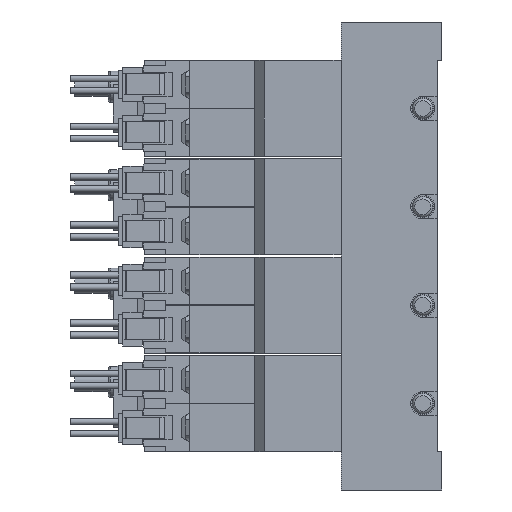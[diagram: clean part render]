
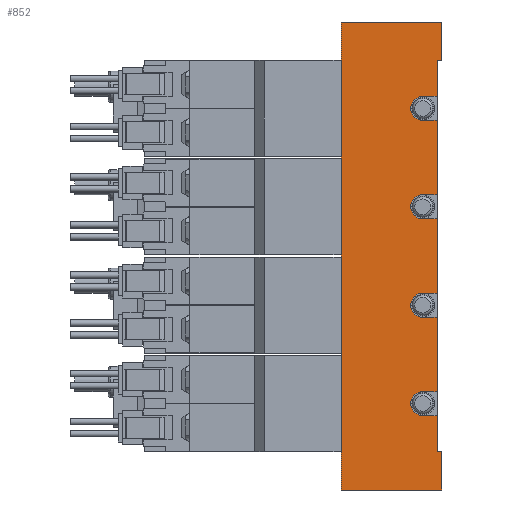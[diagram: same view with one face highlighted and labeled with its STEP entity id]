
A CAD part, left-side view. The second image highlights one B-rep face of the part: STEP entity #852.
In plain terms, the highlighted planar face has unit normal (-1, 0, 0) as drawn and (1, 0, 0) by its records, which use the part's own axes.
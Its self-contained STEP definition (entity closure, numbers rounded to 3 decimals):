
#852=ADVANCED_FACE('',(#1822),#1823,.F.);
#1822=FACE_OUTER_BOUND('',#2872,.T.);
#1823=PLANE('',#2873);
#2872=EDGE_LOOP('',(#6330,#6331,#6332,#6333,#6334,#6335,#6336,#6337,#6338,#6339,#6340,#6341,#6342,#6343,#6344,#6345,#6346,#6347,#6348,#6349,#6350,#6351,#6352,#6353));
#2873=AXIS2_PLACEMENT_3D('',#6354,#6355,#6356);
#6330=ORIENTED_EDGE('',*,*,#7698,.T.);
#6331=ORIENTED_EDGE('',*,*,#7582,.T.);
#6332=ORIENTED_EDGE('',*,*,#7699,.F.);
#6333=ORIENTED_EDGE('',*,*,#7653,.F.);
#6334=ORIENTED_EDGE('',*,*,#7700,.T.);
#6335=ORIENTED_EDGE('',*,*,#7701,.T.);
#6336=ORIENTED_EDGE('',*,*,#7624,.T.);
#6337=ORIENTED_EDGE('',*,*,#7667,.F.);
#6338=ORIENTED_EDGE('',*,*,#7672,.F.);
#6339=ORIENTED_EDGE('',*,*,#7702,.F.);
#6340=ORIENTED_EDGE('',*,*,#7620,.T.);
#6341=ORIENTED_EDGE('',*,*,#7603,.F.);
#6342=ORIENTED_EDGE('',*,*,#7691,.F.);
#6343=ORIENTED_EDGE('',*,*,#7703,.F.);
#6344=ORIENTED_EDGE('',*,*,#7617,.T.);
#6345=ORIENTED_EDGE('',*,*,#7704,.F.);
#6346=ORIENTED_EDGE('',*,*,#7705,.F.);
#6347=ORIENTED_EDGE('',*,*,#7706,.F.);
#6348=ORIENTED_EDGE('',*,*,#7614,.T.);
#6349=ORIENTED_EDGE('',*,*,#7657,.F.);
#6350=ORIENTED_EDGE('',*,*,#7707,.F.);
#6351=ORIENTED_EDGE('',*,*,#7686,.F.);
#6352=ORIENTED_EDGE('',*,*,#7610,.T.);
#6353=ORIENTED_EDGE('',*,*,#7598,.T.);
#6354=CARTESIAN_POINT('',(17.5,1.0,48.75));
#6355=DIRECTION('',(-1.0,0.0,0.0));
#6356=DIRECTION('',(0.0,0.0,1.0));
#7582=EDGE_CURVE('',#9361,#9362,#9363,.T.);
#7598=EDGE_CURVE('',#9383,#9392,#9394,.T.);
#7603=EDGE_CURVE('',#9401,#9402,#9403,.T.);
#7610=EDGE_CURVE('',#9415,#9383,#9416,.T.);
#7614=EDGE_CURVE('',#9423,#9421,#9424,.T.);
#7617=EDGE_CURVE('',#9428,#9426,#9429,.T.);
#7620=EDGE_CURVE('',#9433,#9402,#9434,.T.);
#7624=EDGE_CURVE('',#9441,#9439,#9442,.T.);
#7653=EDGE_CURVE('',#9496,#9498,#9499,.T.);
#7657=EDGE_CURVE('',#9505,#9421,#9506,.T.);
#7667=EDGE_CURVE('',#9521,#9439,#9522,.T.);
#7672=EDGE_CURVE('',#9528,#9521,#9530,.T.);
#7686=EDGE_CURVE('',#9415,#9555,#9556,.T.);
#7691=EDGE_CURVE('',#9561,#9401,#9563,.T.);
#7698=EDGE_CURVE('',#9392,#9361,#9573,.T.);
#7699=EDGE_CURVE('',#9498,#9362,#9574,.T.);
#7700=EDGE_CURVE('',#9496,#9575,#9576,.T.);
#7701=EDGE_CURVE('',#9575,#9441,#9577,.T.);
#7702=EDGE_CURVE('',#9433,#9528,#9578,.T.);
#7703=EDGE_CURVE('',#9428,#9561,#9579,.T.);
#7704=EDGE_CURVE('',#9580,#9426,#9581,.T.);
#7705=EDGE_CURVE('',#9582,#9580,#9583,.T.);
#7706=EDGE_CURVE('',#9423,#9582,#9584,.T.);
#7707=EDGE_CURVE('',#9555,#9505,#9585,.T.);
#9361=VERTEX_POINT('',#12284);
#9362=VERTEX_POINT('',#12285);
#9363=LINE('',#12286,#12287);
#9383=VERTEX_POINT('',#12312);
#9392=VERTEX_POINT('',#12325);
#9394=LINE('',#12328,#12329);
#9401=VERTEX_POINT('',#12338);
#9402=VERTEX_POINT('',#12339);
#9403=LINE('',#12340,#12341);
#9415=VERTEX_POINT('',#12357);
#9416=LINE('',#12358,#12359);
#9421=VERTEX_POINT('',#12366);
#9423=VERTEX_POINT('',#12369);
#9424=LINE('',#12370,#12371);
#9426=VERTEX_POINT('',#12374);
#9428=VERTEX_POINT('',#12377);
#9429=LINE('',#12378,#12379);
#9433=VERTEX_POINT('',#12385);
#9434=LINE('',#12386,#12387);
#9439=VERTEX_POINT('',#12394);
#9441=VERTEX_POINT('',#12397);
#9442=LINE('',#12398,#12399);
#9496=VERTEX_POINT('',#12504);
#9498=VERTEX_POINT('',#12507);
#9499=LINE('',#12508,#12509);
#9505=VERTEX_POINT('',#12516);
#9506=LINE('',#12517,#12518);
#9521=VERTEX_POINT('',#12540);
#9522=LINE('',#12541,#12542);
#9528=VERTEX_POINT('',#12550);
#9530=CIRCLE('',#12553,2.5);
#9555=VERTEX_POINT('',#12582);
#9556=LINE('',#12583,#12584);
#9561=VERTEX_POINT('',#12591);
#9563=CIRCLE('',#12594,2.5);
#9573=LINE('',#12606,#12607);
#9574=LINE('',#12608,#12609);
#9575=VERTEX_POINT('',#12610);
#9576=LINE('',#12611,#12612);
#9577=LINE('',#12613,#12614);
#9578=LINE('',#12615,#12616);
#9579=LINE('',#12617,#12618);
#9580=VERTEX_POINT('',#12619);
#9581=LINE('',#12620,#12621);
#9582=VERTEX_POINT('',#12622);
#9583=CIRCLE('',#12623,2.5);
#9584=LINE('',#12624,#12625);
#9585=CIRCLE('',#12626,2.5);
#12284=CARTESIAN_POINT('',(17.5,0.0,-48.75));
#12285=CARTESIAN_POINT('',(17.5,21.0,-48.75));
#12286=CARTESIAN_POINT('',(17.5,1.0,-48.75));
#12287=VECTOR('',#13964,1.0);
#12312=CARTESIAN_POINT('',(17.5,1.0,-40.75));
#12325=CARTESIAN_POINT('',(17.5,0.0,-40.75));
#12328=CARTESIAN_POINT('',(17.5,4.0,-40.75));
#12329=VECTOR('',#13990,1.0);
#12338=CARTESIAN_POINT('',(17.5,4.0,12.75));
#12339=CARTESIAN_POINT('',(17.5,1.0,12.75));
#12340=CARTESIAN_POINT('',(17.5,1.0,12.75));
#12341=VECTOR('',#13999,1.0);
#12357=CARTESIAN_POINT('',(17.5,1.0,-33.25));
#12358=CARTESIAN_POINT('',(17.5,1.0,48.75));
#12359=VECTOR('',#14010,1.0);
#12366=CARTESIAN_POINT('',(17.5,1.0,-28.25));
#12369=CARTESIAN_POINT('',(17.5,1.0,-12.75));
#12370=CARTESIAN_POINT('',(17.5,1.0,48.75));
#12371=VECTOR('',#14014,1.0);
#12374=CARTESIAN_POINT('',(17.5,1.0,-7.75));
#12377=CARTESIAN_POINT('',(17.5,1.0,7.75));
#12378=CARTESIAN_POINT('',(17.5,1.0,48.75));
#12379=VECTOR('',#14017,1.0);
#12385=CARTESIAN_POINT('',(17.5,1.0,28.25));
#12386=CARTESIAN_POINT('',(17.5,1.0,48.75));
#12387=VECTOR('',#14020,1.0);
#12394=CARTESIAN_POINT('',(17.5,1.0,33.25));
#12397=CARTESIAN_POINT('',(17.5,1.0,40.75));
#12398=CARTESIAN_POINT('',(17.5,1.0,48.75));
#12399=VECTOR('',#14024,1.0);
#12504=CARTESIAN_POINT('',(17.5,0.0,48.75));
#12507=CARTESIAN_POINT('',(17.5,21.0,48.75));
#12508=CARTESIAN_POINT('',(17.5,1.0,48.75));
#12509=VECTOR('',#14090,1.0);
#12516=CARTESIAN_POINT('',(17.5,4.0,-28.25));
#12517=CARTESIAN_POINT('',(17.5,1.0,-28.25));
#12518=VECTOR('',#14098,1.0);
#12540=CARTESIAN_POINT('',(17.5,4.0,33.25));
#12541=CARTESIAN_POINT('',(17.5,1.0,33.25));
#12542=VECTOR('',#14112,1.0);
#12550=CARTESIAN_POINT('',(17.5,4.0,28.25));
#12553=AXIS2_PLACEMENT_3D('',#14119,#14120,#14121);
#12582=CARTESIAN_POINT('',(17.5,4.0,-33.25));
#12583=CARTESIAN_POINT('',(17.5,1.0,-33.25));
#12584=VECTOR('',#14153,1.0);
#12591=CARTESIAN_POINT('',(17.5,4.0,7.75));
#12594=AXIS2_PLACEMENT_3D('',#14160,#14161,#14162);
#12606=CARTESIAN_POINT('',(17.5,0.0,-40.75));
#12607=VECTOR('',#14177,1.0);
#12608=CARTESIAN_POINT('',(17.5,21.0,48.75));
#12609=VECTOR('',#14178,1.0);
#12610=CARTESIAN_POINT('',(17.5,0.0,40.75));
#12611=CARTESIAN_POINT('',(17.5,0.0,48.75));
#12612=VECTOR('',#14179,1.0);
#12613=CARTESIAN_POINT('',(17.5,0.0,40.75));
#12614=VECTOR('',#14180,1.0);
#12615=CARTESIAN_POINT('',(17.5,1.0,28.25));
#12616=VECTOR('',#14181,1.0);
#12617=CARTESIAN_POINT('',(17.5,1.0,7.75));
#12618=VECTOR('',#14182,1.0);
#12619=CARTESIAN_POINT('',(17.5,4.0,-7.75));
#12620=CARTESIAN_POINT('',(17.5,1.0,-7.75));
#12621=VECTOR('',#14183,1.0);
#12622=CARTESIAN_POINT('',(17.5,4.0,-12.75));
#12623=AXIS2_PLACEMENT_3D('',#14184,#14185,#14186);
#12624=CARTESIAN_POINT('',(17.5,1.0,-12.75));
#12625=VECTOR('',#14187,1.0);
#12626=AXIS2_PLACEMENT_3D('',#14188,#14189,#14190);
#13964=DIRECTION('',(0.0,1.0,0.0));
#13990=DIRECTION('',(0.0,-1.0,0.0));
#13999=DIRECTION('',(0.0,-1.0,0.0));
#14010=DIRECTION('',(0.0,0.0,-1.0));
#14014=DIRECTION('',(0.0,0.0,-1.0));
#14017=DIRECTION('',(0.0,0.0,-1.0));
#14020=DIRECTION('',(0.0,0.0,-1.0));
#14024=DIRECTION('',(0.0,0.0,-1.0));
#14090=DIRECTION('',(0.0,1.0,0.0));
#14098=DIRECTION('',(0.0,-1.0,0.0));
#14112=DIRECTION('',(0.0,-1.0,0.0));
#14119=CARTESIAN_POINT('',(17.5,4.0,30.75));
#14120=DIRECTION('',(1.0,0.0,-0.0));
#14121=DIRECTION('',(0.0,0.0,1.0));
#14153=DIRECTION('',(0.0,1.0,0.0));
#14160=CARTESIAN_POINT('',(17.5,4.0,10.25));
#14161=DIRECTION('',(1.0,0.0,-0.0));
#14162=DIRECTION('',(0.0,0.0,1.0));
#14177=DIRECTION('',(0.0,0.0,-1.0));
#14178=DIRECTION('',(0.0,0.0,-1.0));
#14179=DIRECTION('',(0.0,0.0,-1.0));
#14180=DIRECTION('',(0.0,1.0,0.0));
#14181=DIRECTION('',(0.0,1.0,0.0));
#14182=DIRECTION('',(0.0,1.0,0.0));
#14183=DIRECTION('',(0.0,-1.0,0.0));
#14184=CARTESIAN_POINT('',(17.5,4.0,-10.25));
#14185=DIRECTION('',(1.0,0.0,-0.0));
#14186=DIRECTION('',(0.0,0.0,1.0));
#14187=DIRECTION('',(0.0,1.0,0.0));
#14188=CARTESIAN_POINT('',(17.5,4.0,-30.75));
#14189=DIRECTION('',(1.0,0.0,-0.0));
#14190=DIRECTION('',(0.0,0.0,1.0));
